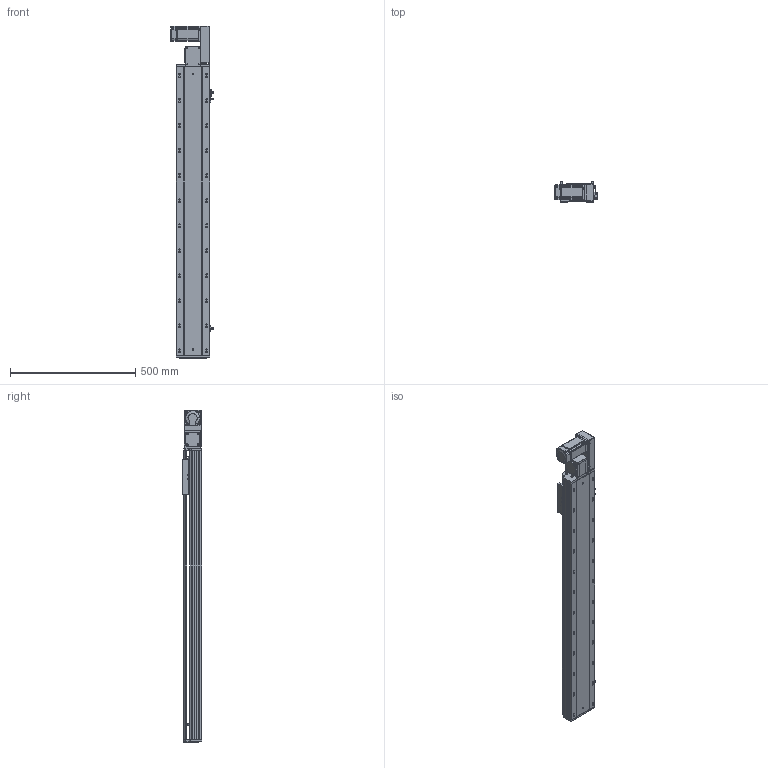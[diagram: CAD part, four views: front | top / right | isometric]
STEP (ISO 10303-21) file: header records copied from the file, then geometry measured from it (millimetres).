
FILE_DESCRIPTION (( 'STEP AP203' ), '1' );
FILE_NAME ('RY140-T-300-RK.SLDASM_900.step', '2021-03-01T06:45:40', ( '盈信电脑' ), ( '东莞市道滘镇水果街19号' ), 'SwSTEP 2.0', 'SolidWorks 2012', '' );
FILE_SCHEMA (( 'CONFIG_CONTROL_DESIGN' ));
Length unit declared in the file: millimetre
Products named in the file (17): RY140-T-300-RK.SLDASM_900; RY120-T蹟翐M4; RY120-T主同步轮轴承压盖; 15; RY140-T萇儂欶; RY140-T翋肮謫裔啣; 滅袉蝶18-10; RY140-T萇儂假蚾啣; RY120外置感应片(140共用）; RY120-T肮祭湍揤踡輸2; RY120-T肮祭湍揤踡輸1; RY140-T翋肮祭謫盓傅釱; RY140肮祭謫臏賑輸; RY140-T-300-DR倰第奻裔啣_900; 覜茼ん672; RY140綴裔啣; RY140-T-300-DR倰第菁釱_900
Assembly tree (22 placements, depth 2):
  RY140-T-300-RK.SLDASM_900
    RY140-T-300-DR倰第菁釱_900
    RY140肮祭謫臏賑輸
    RY140-T-300-DR倰第奻裔啣_900
    RY140綴裔啣
    覜茼ん672  x3
    RY120外置感应片(140共用）
    RY120-T肮祭湍揤踡輸2
    RY120-T肮祭湍揤踡輸1
    RY140-T翋肮祭謫盓傅釱
    滅袉蝶18-10  x2
    RY140-T翋肮謫裔啣
    RY140-T萇儂欶
    RY140-T萇儂假蚾啣
    RY120-T蹟翐M4  x4
    15
    RY120-T主同步轮轴承压盖
Bounding box: 170.7 x 78 x 1326.5 mm (x, y, z)
Volume: 3749758.1 mm3; surface area: 1427788.4 mm2
Topology: 22 solids, 22 shells, 2739 faces, 7569 edges, 4866 vertices
Faces by surface type: plane 1385, cylinder 1040, cone 214, bspline 100
Entity records: 87462 total; most frequent: CARTESIAN_POINT 21577, ORIENTED_EDGE 13634, DIRECTION 12853, EDGE_CURVE 6817, VERTEX_POINT 4465, LINE 4289, VECTOR 4289, AXIS2_PLACEMENT_3D 4282
